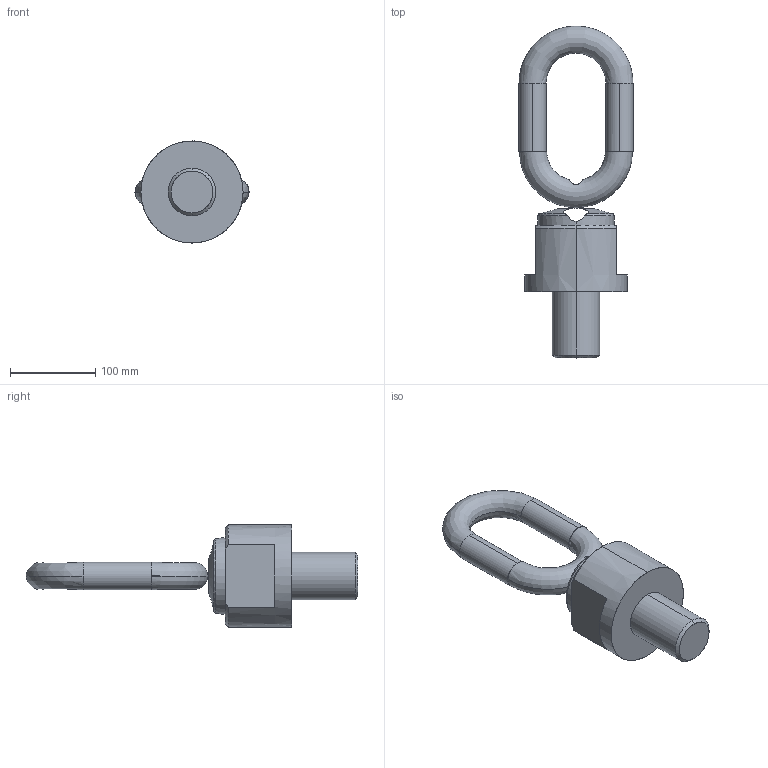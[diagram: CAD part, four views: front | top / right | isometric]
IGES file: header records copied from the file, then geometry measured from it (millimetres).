
Start section: START RECORD GO HERE.
Global section: file name: C8001505678.igs; native system: DASSAULT SYSTEMES CATIA V5 R20 - www.3ds.com; preprocessor: CATIA Version 5 Release 20 ; author: Utente; organization: NB04-ASUS; date: 20200412.160900; units: millimetre
Bounding box: 134 x 390 x 120 mm (x, y, z)
Surface area: 114170.7 mm2 (no closed solid volume)
Topology: 0 solids, 0 shells, 36 faces, 178 edges, 178 vertices
Faces by surface type: revolution 24, extrusion 12
